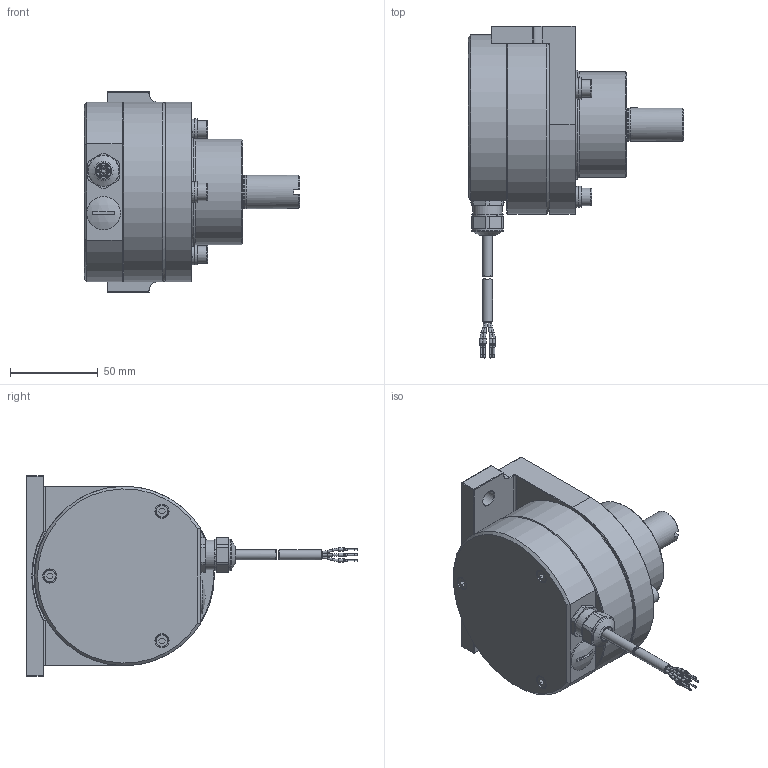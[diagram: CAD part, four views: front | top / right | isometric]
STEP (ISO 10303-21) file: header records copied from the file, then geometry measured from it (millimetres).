
FILE_DESCRIPTION(/* description */ (''),/* implementation_level */ '2;1');
FILE_NAME(/* name */ 'RTA602-RTC600_w.Bracket_3D CAD_20260212.STP',/* time_stamp */ '2026-02-12T12:53:20+01:00',/* author */ ('jdi'),/* organization */ (''),/* preprocessor_version */ 'ST-DEVELOPER v19.2',/* originating_system */ 'Autodesk Inventor 2023',/* authorisation */ '');
FILE_SCHEMA (('AUTOMOTIVE_DESIGN { 1 0 10303 214 3 1 1 }'));
Length unit declared in the file: millimetre
Products named in the file (6): RTA602-RTC600_W_Bracket.ipt; RTA602-RTC600; 1120340016; 1136500603; BN 610 1032844 hexagon socket head cap screw M6x30; BN 672 1253611 helical spring lock washer with flat end M6
Assembly tree (11 placements, depth 2):
  RTA602-RTC600_W_Bracket.ipt
    RTA602-RTC600
    1120340016
    1136500603  x3
    BN 610 1032844 hexagon socket head cap screw M6x30  x3
    BN 672 1253611 helical spring lock washer with flat end M6  x3
Bounding box: 122.5 x 188.59 x 114 mm (x, y, z)
Volume: 626232.3 mm3; surface area: 85007.6 mm2
Topology: 12 solids, 21 shells, 551 faces, 1254 edges, 795 vertices
Faces by surface type: plane 238, cylinder 167, cone 111, torus 34, sphere 1
Full cylindrical faces by diameter (mm): 0.8 x12, 1.1 x6, 1.4 x24, 1.5 x6, 1.9 x6, 2.5 x1, 4.773 x3, 5.6 x2, 6 x7, 6.4 x3, 7 x3, 8 x3, 8.5 x1, 9 x2, 10 x3, 10.2 x1, 10.7 x1, 11.5 x1, 12 x3, 13.5 x1, 16.79 x1, 17.8 x2, 18.6 x1, 19 x2, 22 x1, 23 x1, 60 x1, 62 x2, 102 x1
Entity records: 22832 total; most frequent: CARTESIAN_POINT 11339, DIRECTION 2439, ORIENTED_EDGE 2124, EDGE_CURVE 1062, AXIS2_PLACEMENT_3D 979, VERTEX_POINT 672, EDGE_LOOP 566, LINE 481
